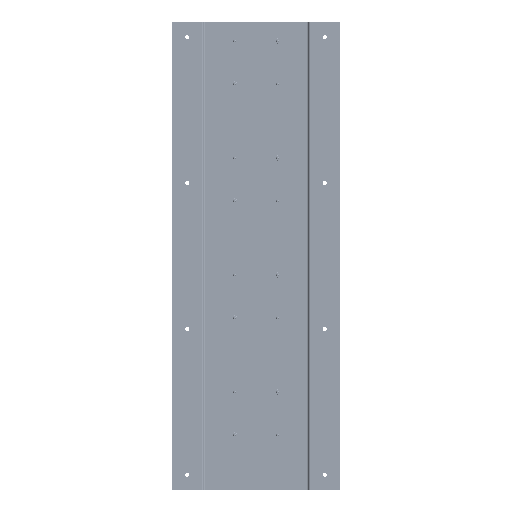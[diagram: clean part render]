
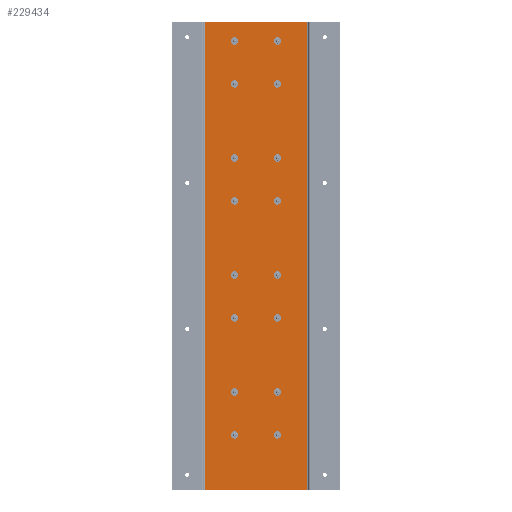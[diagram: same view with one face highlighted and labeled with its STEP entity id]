
A CAD part, front view. The second image highlights one B-rep face of the part: STEP entity #229434.
In plain terms, the highlighted planar face has unit normal (0, -1, 0).
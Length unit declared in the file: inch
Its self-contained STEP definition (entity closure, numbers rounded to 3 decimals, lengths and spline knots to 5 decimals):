
#11395 = PLANE ( 'NONE',  #57241 ) ;
#12367 = LINE ( 'NONE', #56003, #148337 ) ;
#23944 = CARTESIAN_POINT ( 'NONE',  ( -5.025, 5.125, -1. ) ) ;
#36608 = VECTOR ( 'NONE', #123802, 39.37008 ) ;
#37652 = VECTOR ( 'NONE', #217955, 39.37008 ) ;
#43975 = CARTESIAN_POINT ( 'NONE',  ( 5.025, 5.125, 45. ) ) ;
#49083 = ORIENTED_EDGE ( 'NONE', *, *, #229996, .F. ) ;
#55871 = DIRECTION ( 'NONE',  ( 0., 0., -1. ) ) ;
#56003 = CARTESIAN_POINT ( 'NONE',  ( -5.025, 5.125, 45. ) ) ;
#57241 = AXIS2_PLACEMENT_3D ( 'NONE', #117623, #206761, #100531 ) ;
#68261 = ORIENTED_EDGE ( 'NONE', *, *, #139511, .T. ) ;
#75192 = EDGE_CURVE ( 'NONE', #223053, #155222, #179107, .T. ) ;
#76543 = LINE ( 'NONE', #215535, #170802 ) ;
#93890 = CARTESIAN_POINT ( 'NONE',  ( 5.125, 5.125, 45. ) ) ;
#100531 = DIRECTION ( 'NONE',  ( -1., 0., 0. ) ) ;
#113585 = CARTESIAN_POINT ( 'NONE',  ( 5.025, 5.125, -1. ) ) ;
#117623 = CARTESIAN_POINT ( 'NONE',  ( 5.125, 5.125, 45. ) ) ;
#123802 = DIRECTION ( 'NONE',  ( 1., 0., 0. ) ) ;
#125335 = LINE ( 'NONE', #141588, #36608 ) ;
#125749 = DIRECTION ( 'NONE',  ( 0., 0., -1. ) ) ;
#137175 = CARTESIAN_POINT ( 'NONE',  ( -5.025, 5.125, 45. ) ) ;
#139511 = EDGE_CURVE ( 'NONE', #223053, #177763, #12367, .T. ) ;
#141588 = CARTESIAN_POINT ( 'NONE',  ( 5.125, 5.125, -1. ) ) ;
#141836 = EDGE_LOOP ( 'NONE', ( #68261, #157953, #49083, #143396 ) ) ;
#143396 = ORIENTED_EDGE ( 'NONE', *, *, #75192, .F. ) ;
#148337 = VECTOR ( 'NONE', #125749, 39.37008 ) ;
#155222 = VERTEX_POINT ( 'NONE', #43975 ) ;
#157953 = ORIENTED_EDGE ( 'NONE', *, *, #174405, .T. ) ;
#170802 = VECTOR ( 'NONE', #55871, 39.37008 ) ;
#174405 = EDGE_CURVE ( 'NONE', #177763, #182558, #125335, .T. ) ;
#177763 = VERTEX_POINT ( 'NONE', #23944 ) ;
#179107 = LINE ( 'NONE', #93890, #37652 ) ;
#182558 = VERTEX_POINT ( 'NONE', #113585 ) ;
#204135 = FACE_OUTER_BOUND ( 'NONE', #141836, .T. ) ;
#206761 = DIRECTION ( 'NONE',  ( 0., 1., 0. ) ) ;
#215535 = CARTESIAN_POINT ( 'NONE',  ( 5.025, 5.125, 45. ) ) ;
#217955 = DIRECTION ( 'NONE',  ( 1., 0., 0. ) ) ;
#223053 = VERTEX_POINT ( 'NONE', #137175 ) ;
#229434 = ADVANCED_FACE ( 'NONE', ( #204135 ), #11395, .F. ) ;
#229996 = EDGE_CURVE ( 'NONE', #155222, #182558, #76543, .T. ) ;
